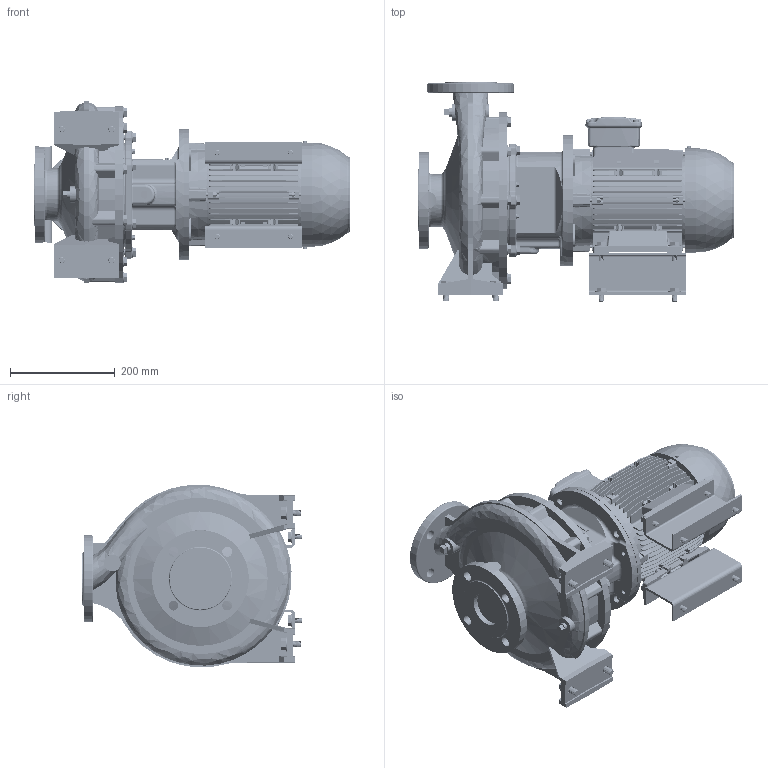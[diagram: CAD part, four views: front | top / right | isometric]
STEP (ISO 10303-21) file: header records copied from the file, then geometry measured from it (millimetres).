
FILE_DESCRIPTION (( 'STEP AP214' ), '1' );
FILE_NAME ('GSD4 50-250_3.0_(100L)_W21.STEP', '2026-06-18T06:19:30', ( '' ), ( '' ), 'SwSTEP 2.0', 'SolidWorks 2024', '' );
FILE_SCHEMA (( 'AUTOMOTIVE_DESIGN' ));
Length unit declared in the file: millimetre
Products named in the file (9): 140 x 80 - 271472220; GSD4 50-250_3.0_(100L)_W21; 100L ALIE3_W21T_B35; Parametric Flat Washer_M12; Parametric bolt_SFT-A299B; Parametric bolt_SFT-A249B; Parametric Flat Washer_M10; 50-250-100L_ﾃﾞﾌｫﾙﾄ; Parametric bolt_SFT-A253B
Assembly tree (28 placements, depth 2):
  GSD4 50-250_3.0_(100L)_W21
    50-250-100L_ﾃﾞﾌｫﾙﾄ
    100L ALIE3_W21T_B35
    140 x 80 - 271472220  x2
    Parametric bolt_SFT-A249B  x4
    Parametric bolt_SFT-A253B  x4
    Parametric bolt_SFT-A299B  x4
    Parametric Flat Washer_M12  x4
    Parametric Flat Washer_M10  x8
Bounding box: 602.1 x 418 x 348.52 mm (x, y, z)
Volume: 20051140.6 mm3; surface area: 1664032.6 mm2
Topology: 31 solids, 32 shells, 4440 faces, 11549 edges, 7420 vertices
Faces by surface type: plane 2417, cylinder 1195, torus 317, cone 247, bspline 246, sphere 18
Entity records: 185779 total; most frequent: CARTESIAN_POINT 91882, ORIENTED_EDGE 20344, DIRECTION 18196, EDGE_CURVE 10172, VERTEX_POINT 6540, LINE 6248, VECTOR 6248, AXIS2_PLACEMENT_3D 5974
